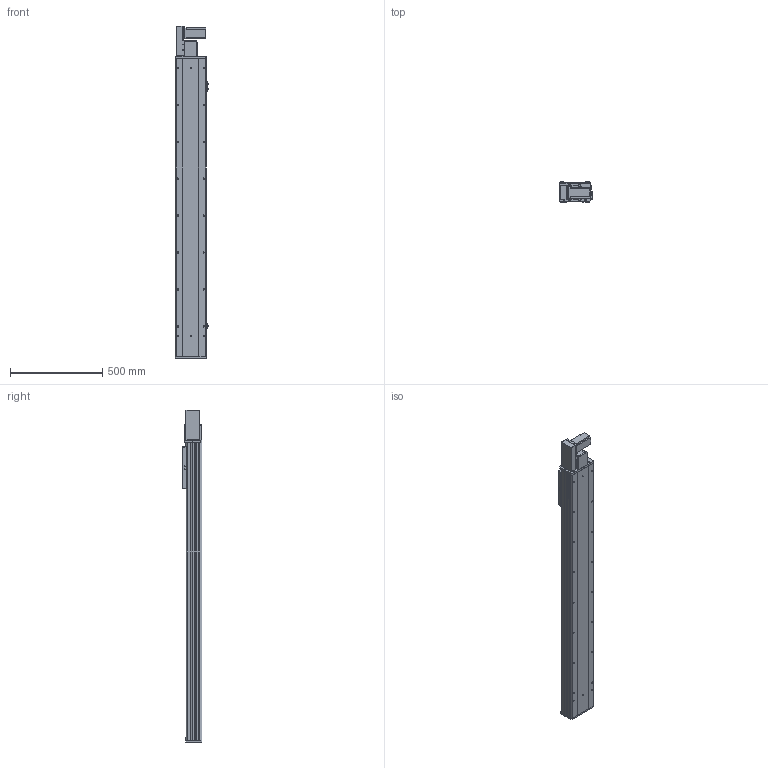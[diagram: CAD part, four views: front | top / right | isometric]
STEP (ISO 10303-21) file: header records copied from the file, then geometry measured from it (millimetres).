
FILE_DESCRIPTION (( 'STEP AP203' ), '1' );
FILE_NAME ('Y170CB-D105-S1300-BL-P400W.STEP', '2020-02-20T01:22:13', ( '微软用户' ), ( '微软中国' ), 'SwSTEP 2.0', 'SolidWorks 2017', '' );
FILE_SCHEMA (( 'CONFIG_CONTROL_DESIGN' ));
Length unit declared in the file: millimetre
Products named in the file (18): 70CB-詩湍--; Y70俋欶BR----; Y100-135俋离換覜ん--; 70CB-掛极-; Y170CB-陔俋离換覜結え---; --70CB --喘謫眊楊擘啣-; 70B喘謫眊----; 70CB-耜裔啣-; Y1埴倛裔; 70C--詩湍揤踡え-; B-源倛裔啣; Y170CB-D105-S1300-BL-P400W; 70CB--耜裔; 17B-耜蚾蟀諉啣----; 70C-雄赽釱-奻-; 0B-萇儂楊擘啣; 0C--雄赽釱俋欶-170; san松下电机400不带刹车----
Assembly tree (21 placements, depth 2):
  Y170CB-D105-S1300-BL-P400W
    B-源倛裔啣
    17B-耜蚾蟀諉啣----
    0B-萇儂楊擘啣
    san松下电机400不带刹车----
    Y70俋欶BR----
    70CB-掛极-
    --70CB --喘謫眊楊擘啣-
    70CB-耜裔啣-  x2
    70C--詩湍揤踡え-  x2
    70CB--耜裔
    70C-雄赽釱-奻-
    0C--雄赽釱俋欶-170
    70CB-詩湍--
    Y100-135俋离換覜ん--  x3
    Y170CB-陔俋离換覜結え---
    70B喘謫眊----
    Y1埴倛裔
Bounding box: 183.5 x 107 x 1797 mm (x, y, z)
Volume: 7718187.2 mm3; surface area: 2771492.8 mm2
Topology: 21 solids, 21 shells, 1023 faces, 2741 edges, 1818 vertices
Faces by surface type: cylinder 535, plane 464, cone 24
Entity records: 32612 total; most frequent: CARTESIAN_POINT 5976, DIRECTION 5302, ORIENTED_EDGE 4964, EDGE_CURVE 2482, AXIS2_PLACEMENT_3D 1944, VERTEX_POINT 1648, LINE 1414, VECTOR 1414
